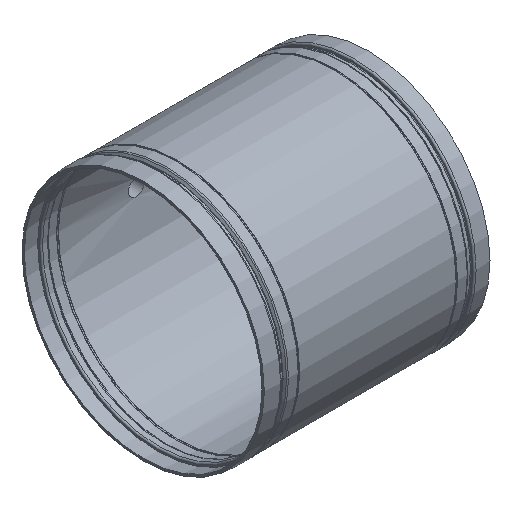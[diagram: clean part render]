
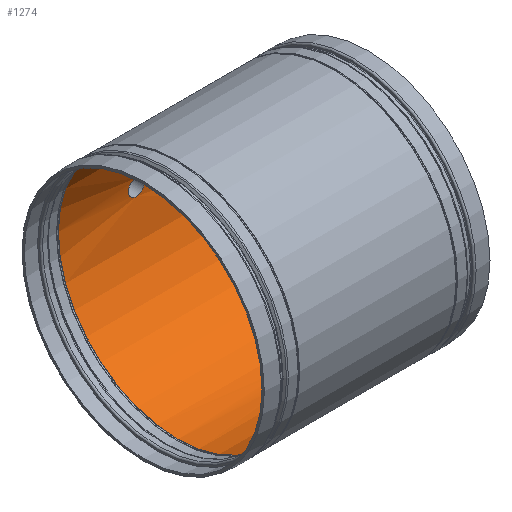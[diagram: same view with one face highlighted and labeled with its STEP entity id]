
A CAD part, isometric view. The second image highlights one B-rep face of the part: STEP entity #1274.
In plain terms, the highlighted cylindrical face has radius 158.877 mm (diameter 317.754 mm), a full revolution.
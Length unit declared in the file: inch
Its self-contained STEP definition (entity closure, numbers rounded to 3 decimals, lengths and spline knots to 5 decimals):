
#81=FACE_BOUND('',#171,.T.);
#82=FACE_BOUND('',#172,.T.);
#108=FACE_OUTER_BOUND('',#170,.T.);
#170=EDGE_LOOP('',(#817,#818,#819,#820,#821,#822,#823,#824));
#171=EDGE_LOOP('',(#825,#826));
#172=EDGE_LOOP('',(#827,#828));
#237=B_SPLINE_CURVE_WITH_KNOTS('',3,(#2093,#2094,#2095,#2096,#2097,#2098,
#2099,#2100,#2101,#2102),.UNSPECIFIED.,.F.,.F.,(4,2,2,2,4),(0.,0.40198,
0.80396,1.20594,1.60792),.UNSPECIFIED.);
#238=B_SPLINE_CURVE_WITH_KNOTS('',3,(#2103,#2104,#2105,#2106,#2107,#2108,
#2109,#2110,#2111,#2112,#2113,#2114,#2115,#2116,#2117,#2118,#2119,#2120,
#2121,#2122,#2123,#2124,#2125,#2126,#2127,#2128),.UNSPECIFIED.,.F.,.F.,
(4,2,2,2,2,2,2,2,2,2,2,2,4),(1.60792,2.0099,2.41187,
2.81385,3.21583,3.61781,4.01979,4.42177,
4.82375,5.22573,5.62771,6.02969,6.43167),
 .UNSPECIFIED.);
#241=B_SPLINE_CURVE_WITH_KNOTS('',3,(#2227,#2228,#2229,#2230,#2231,#2232,
#2233,#2234,#2235,#2236,#2237,#2238,#2239,#2240,#2241,#2242,#2243,#2244,
#2245,#2246,#2247,#2248,#2249,#2250,#2251,#2252),.UNSPECIFIED.,.F.,.F.,
(4,2,2,2,2,2,2,2,2,2,2,2,4),(0.,0.40198,0.80396,1.20594,
1.60792,2.0099,2.41187,2.81385,3.21583,
3.61781,4.01979,4.42177,4.82375),
 .UNSPECIFIED.);
#242=B_SPLINE_CURVE_WITH_KNOTS('',3,(#2253,#2254,#2255,#2256,#2257,#2258,
#2259,#2260,#2261,#2262),.UNSPECIFIED.,.F.,.F.,(4,2,2,2,4),(4.82375,
5.22573,5.62771,6.02969,6.43167),
 .UNSPECIFIED.);
#248=LINE('',#2218,#272);
#272=VECTOR('',#1615,6.255);
#297=CIRCLE('',#1359,6.255);
#298=CIRCLE('',#1360,6.255);
#299=CIRCLE('',#1361,6.255);
#300=CIRCLE('',#1362,6.255);
#301=CIRCLE('',#1363,6.255);
#302=CIRCLE('',#1364,6.255);
#458=VERTEX_POINT('',#2090);
#459=VERTEX_POINT('',#2092);
#465=VERTEX_POINT('',#2212);
#466=VERTEX_POINT('',#2213);
#467=VERTEX_POINT('',#2215);
#468=VERTEX_POINT('',#2217);
#469=VERTEX_POINT('',#2219);
#470=VERTEX_POINT('',#2221);
#471=VERTEX_POINT('',#2225);
#472=VERTEX_POINT('',#2226);
#605=EDGE_CURVE('',#459,#458,#237,.T.);
#606=EDGE_CURVE('',#458,#459,#238,.T.);
#614=EDGE_CURVE('',#465,#466,#297,.T.);
#615=EDGE_CURVE('',#466,#467,#298,.T.);
#616=EDGE_CURVE('',#467,#468,#248,.T.);
#617=EDGE_CURVE('',#469,#468,#299,.T.);
#618=EDGE_CURVE('',#470,#469,#300,.T.);
#619=EDGE_CURVE('',#468,#470,#301,.T.);
#620=EDGE_CURVE('',#467,#465,#302,.T.);
#621=EDGE_CURVE('',#471,#472,#241,.T.);
#622=EDGE_CURVE('',#472,#471,#242,.T.);
#817=ORIENTED_EDGE('',*,*,#614,.T.);
#818=ORIENTED_EDGE('',*,*,#615,.T.);
#819=ORIENTED_EDGE('',*,*,#616,.T.);
#820=ORIENTED_EDGE('',*,*,#617,.F.);
#821=ORIENTED_EDGE('',*,*,#618,.F.);
#822=ORIENTED_EDGE('',*,*,#619,.F.);
#823=ORIENTED_EDGE('',*,*,#616,.F.);
#824=ORIENTED_EDGE('',*,*,#620,.T.);
#825=ORIENTED_EDGE('',*,*,#605,.T.);
#826=ORIENTED_EDGE('',*,*,#606,.T.);
#827=ORIENTED_EDGE('',*,*,#621,.T.);
#828=ORIENTED_EDGE('',*,*,#622,.T.);
#1194=CYLINDRICAL_SURFACE('',#1358,6.255);
#1274=ADVANCED_FACE('',(#108,#81,#82),#1194,.F.);
#1358=AXIS2_PLACEMENT_3D('',#2211,#1609,#1610);
#1359=AXIS2_PLACEMENT_3D('',#2214,#1611,#1612);
#1360=AXIS2_PLACEMENT_3D('',#2216,#1613,#1614);
#1361=AXIS2_PLACEMENT_3D('',#2220,#1616,#1617);
#1362=AXIS2_PLACEMENT_3D('',#2222,#1618,#1619);
#1363=AXIS2_PLACEMENT_3D('',#2223,#1620,#1621);
#1364=AXIS2_PLACEMENT_3D('',#2224,#1622,#1623);
#1609=DIRECTION('center_axis',(1.,0.,0.));
#1610=DIRECTION('ref_axis',(0.,1.,0.));
#1611=DIRECTION('center_axis',(1.,0.,0.));
#1612=DIRECTION('ref_axis',(0.,0.,-1.));
#1613=DIRECTION('center_axis',(1.,0.,0.));
#1614=DIRECTION('ref_axis',(0.,0.,-1.));
#1615=DIRECTION('',(-1.,0.,0.));
#1616=DIRECTION('center_axis',(1.,0.,0.));
#1617=DIRECTION('ref_axis',(0.,0.,-1.));
#1618=DIRECTION('center_axis',(1.,0.,0.));
#1619=DIRECTION('ref_axis',(0.,0.,-1.));
#1620=DIRECTION('center_axis',(1.,0.,0.));
#1621=DIRECTION('ref_axis',(0.,0.,-1.));
#1622=DIRECTION('center_axis',(1.,0.,0.));
#1623=DIRECTION('ref_axis',(0.,0.,-1.));
#2090=CARTESIAN_POINT('',(1.54,0.,-6.255));
#2092=CARTESIAN_POINT('',(1.96,-0.42,-6.24088));
#2093=CARTESIAN_POINT('Ctrl Pts',(1.96,-0.42,-6.24088));
#2094=CARTESIAN_POINT('Ctrl Pts',(1.90725,-0.42,-6.24088));
#2095=CARTESIAN_POINT('Ctrl Pts',(1.85099,-0.40945,-6.24162));
#2096=CARTESIAN_POINT('Ctrl Pts',(1.74751,-0.36659,-6.24429));
#2097=CARTESIAN_POINT('Ctrl Pts',(1.7003,-0.33427,-6.24617));
#2098=CARTESIAN_POINT('Ctrl Pts',(1.62573,-0.2597,-6.24972));
#2099=CARTESIAN_POINT('Ctrl Pts',(1.59341,-0.21249,-6.2516));
#2100=CARTESIAN_POINT('Ctrl Pts',(1.55055,-0.10901,-6.25426));
#2101=CARTESIAN_POINT('Ctrl Pts',(1.54,-0.05275,-6.255));
#2102=CARTESIAN_POINT('Ctrl Pts',(1.54,0.,-6.255));
#2103=CARTESIAN_POINT('Ctrl Pts',(1.54,0.,-6.255));
#2104=CARTESIAN_POINT('Ctrl Pts',(1.54,0.05275,-6.255));
#2105=CARTESIAN_POINT('Ctrl Pts',(1.55055,0.10901,-6.25426));
#2106=CARTESIAN_POINT('Ctrl Pts',(1.59341,0.21249,-6.2516));
#2107=CARTESIAN_POINT('Ctrl Pts',(1.62573,0.2597,-6.24972));
#2108=CARTESIAN_POINT('Ctrl Pts',(1.7003,0.33427,-6.24617));
#2109=CARTESIAN_POINT('Ctrl Pts',(1.74751,0.36659,-6.24429));
#2110=CARTESIAN_POINT('Ctrl Pts',(1.85099,0.40945,-6.24162));
#2111=CARTESIAN_POINT('Ctrl Pts',(1.90725,0.42,-6.24088));
#2112=CARTESIAN_POINT('Ctrl Pts',(2.01275,0.42,-6.24088));
#2113=CARTESIAN_POINT('Ctrl Pts',(2.06901,0.40945,-6.24162));
#2114=CARTESIAN_POINT('Ctrl Pts',(2.17249,0.36659,-6.24429));
#2115=CARTESIAN_POINT('Ctrl Pts',(2.2197,0.33427,-6.24617));
#2116=CARTESIAN_POINT('Ctrl Pts',(2.29427,0.2597,-6.24972));
#2117=CARTESIAN_POINT('Ctrl Pts',(2.32659,0.21249,-6.2516));
#2118=CARTESIAN_POINT('Ctrl Pts',(2.36945,0.10901,-6.25426));
#2119=CARTESIAN_POINT('Ctrl Pts',(2.38,0.05275,-6.255));
#2120=CARTESIAN_POINT('Ctrl Pts',(2.38,-0.05275,-6.255));
#2121=CARTESIAN_POINT('Ctrl Pts',(2.36945,-0.10901,-6.25426));
#2122=CARTESIAN_POINT('Ctrl Pts',(2.32659,-0.21249,-6.2516));
#2123=CARTESIAN_POINT('Ctrl Pts',(2.29427,-0.2597,-6.24972));
#2124=CARTESIAN_POINT('Ctrl Pts',(2.2197,-0.33427,-6.24617));
#2125=CARTESIAN_POINT('Ctrl Pts',(2.17249,-0.36659,-6.24429));
#2126=CARTESIAN_POINT('Ctrl Pts',(2.06901,-0.40945,-6.24162));
#2127=CARTESIAN_POINT('Ctrl Pts',(2.01275,-0.42,-6.24088));
#2128=CARTESIAN_POINT('Ctrl Pts',(1.96,-0.42,-6.24088));
#2211=CARTESIAN_POINT('Origin',(-2.03963,0.,
0.));
#2212=CARTESIAN_POINT('',(4.07927,6.255,0.));
#2213=CARTESIAN_POINT('',(4.07927,0.,6.255));
#2214=CARTESIAN_POINT('Origin',(4.07927,0.,0.));
#2215=CARTESIAN_POINT('',(4.07927,-6.255,0.));
#2216=CARTESIAN_POINT('Origin',(4.07927,0.,0.));
#2217=CARTESIAN_POINT('',(-4.07927,-6.255,0.));
#2218=CARTESIAN_POINT('',(-2.03963,-6.255,0.));
#2219=CARTESIAN_POINT('',(-4.07927,0.,6.255));
#2220=CARTESIAN_POINT('Origin',(-4.07927,0.,
0.));
#2221=CARTESIAN_POINT('',(-4.07927,6.255,0.));
#2222=CARTESIAN_POINT('Origin',(-4.07927,0.,
0.));
#2223=CARTESIAN_POINT('Origin',(-4.07927,0.,
0.));
#2224=CARTESIAN_POINT('Origin',(4.07927,0.,0.));
#2225=CARTESIAN_POINT('',(-0.01,6.24088,-0.42));
#2226=CARTESIAN_POINT('',(0.41,6.255,0.));
#2227=CARTESIAN_POINT('Ctrl Pts',(-0.01,6.24088,
-0.42));
#2228=CARTESIAN_POINT('Ctrl Pts',(-0.06275,6.24088,
-0.42));
#2229=CARTESIAN_POINT('Ctrl Pts',(-0.11901,6.24162,-0.40945));
#2230=CARTESIAN_POINT('Ctrl Pts',(-0.22249,6.24429,-0.36659));
#2231=CARTESIAN_POINT('Ctrl Pts',(-0.2697,6.24617,-0.33427));
#2232=CARTESIAN_POINT('Ctrl Pts',(-0.34427,6.24972,-0.2597));
#2233=CARTESIAN_POINT('Ctrl Pts',(-0.37659,6.2516,-0.21249));
#2234=CARTESIAN_POINT('Ctrl Pts',(-0.41945,6.25426,-0.10901));
#2235=CARTESIAN_POINT('Ctrl Pts',(-0.43,6.255,-0.05275));
#2236=CARTESIAN_POINT('Ctrl Pts',(-0.43,6.255,0.05275));
#2237=CARTESIAN_POINT('Ctrl Pts',(-0.41945,6.25426,0.10901));
#2238=CARTESIAN_POINT('Ctrl Pts',(-0.37659,6.2516,0.21249));
#2239=CARTESIAN_POINT('Ctrl Pts',(-0.34427,6.24972,0.2597));
#2240=CARTESIAN_POINT('Ctrl Pts',(-0.2697,6.24617,0.33427));
#2241=CARTESIAN_POINT('Ctrl Pts',(-0.22249,6.24429,0.36659));
#2242=CARTESIAN_POINT('Ctrl Pts',(-0.11901,6.24162,0.40945));
#2243=CARTESIAN_POINT('Ctrl Pts',(-0.06275,6.24088,
0.42));
#2244=CARTESIAN_POINT('Ctrl Pts',(0.04275,6.24088,0.42));
#2245=CARTESIAN_POINT('Ctrl Pts',(0.09901,6.24162,0.40945));
#2246=CARTESIAN_POINT('Ctrl Pts',(0.20249,6.24429,0.36659));
#2247=CARTESIAN_POINT('Ctrl Pts',(0.2497,6.24617,0.33427));
#2248=CARTESIAN_POINT('Ctrl Pts',(0.32427,6.24972,0.2597));
#2249=CARTESIAN_POINT('Ctrl Pts',(0.35659,6.2516,0.21249));
#2250=CARTESIAN_POINT('Ctrl Pts',(0.39945,6.25426,0.10901));
#2251=CARTESIAN_POINT('Ctrl Pts',(0.41,6.255,0.05275));
#2252=CARTESIAN_POINT('Ctrl Pts',(0.41,6.255,0.));
#2253=CARTESIAN_POINT('Ctrl Pts',(0.41,6.255,0.));
#2254=CARTESIAN_POINT('Ctrl Pts',(0.41,6.255,-0.05275));
#2255=CARTESIAN_POINT('Ctrl Pts',(0.39945,6.25426,-0.10901));
#2256=CARTESIAN_POINT('Ctrl Pts',(0.35659,6.2516,-0.21249));
#2257=CARTESIAN_POINT('Ctrl Pts',(0.32427,6.24972,-0.2597));
#2258=CARTESIAN_POINT('Ctrl Pts',(0.2497,6.24617,-0.33427));
#2259=CARTESIAN_POINT('Ctrl Pts',(0.20249,6.24429,-0.36659));
#2260=CARTESIAN_POINT('Ctrl Pts',(0.09901,6.24162,-0.40945));
#2261=CARTESIAN_POINT('Ctrl Pts',(0.04275,6.24088,-0.42));
#2262=CARTESIAN_POINT('Ctrl Pts',(-0.01,6.24088,
-0.42));
